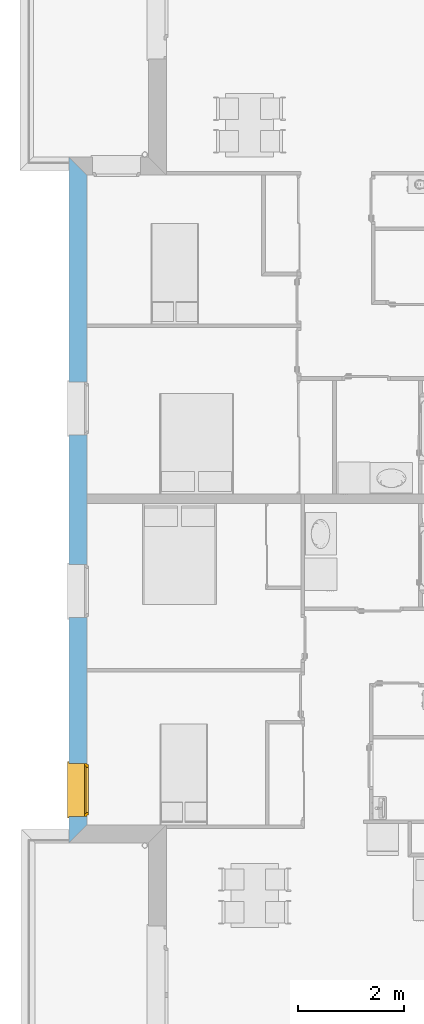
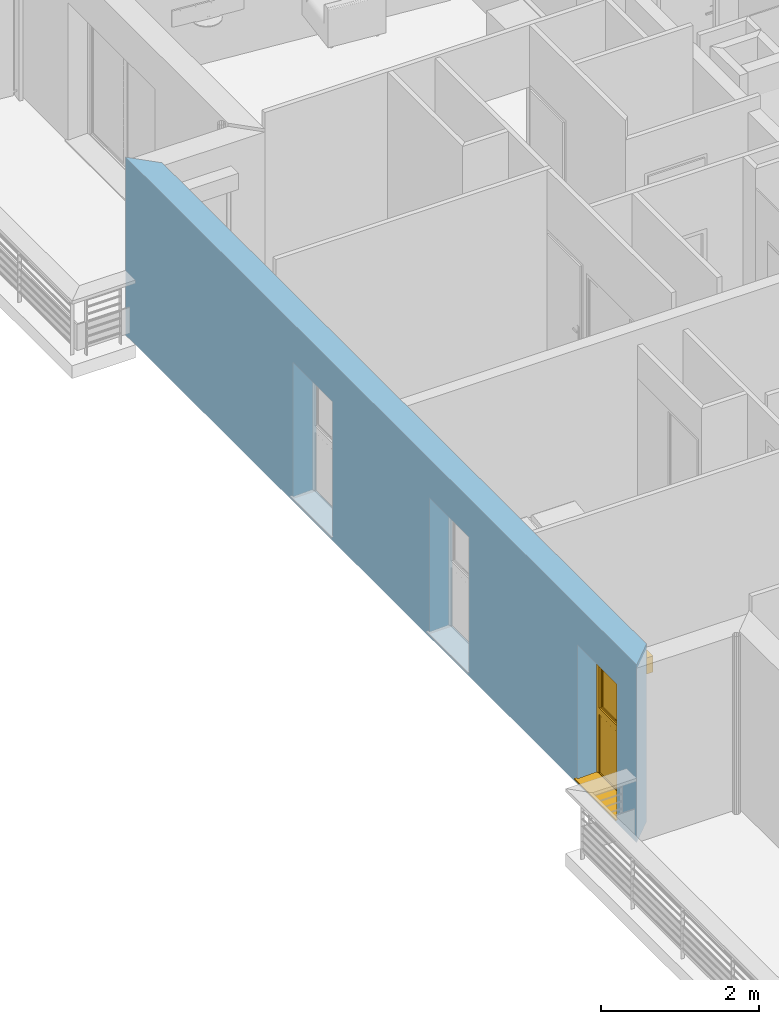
# One storey, part 26 of 164: 1 window, 3 openings, plus 1 element that does not belong to this part.
"""IFC2X3 building model written with IfcOpenShell, lengths in millimetres."""

from ifc_helpers import new_model, entity, si_unit, converted_unit, derived_unit, money_unit, direction, frame, origin_with_axes, place, context, subcontext, project, spatial, polyline, outline, extrude, open_shell, faceted_brep, surface_model, source, transform, mapped, material, layer, layer_set, layer_usage, type_object, element, fill, save


model = new_model("IFC2X3")

# Units and contexts
model_context = context("Model", 3, precision=0.01, world=origin_with_axes(), true_north=direction((0.0, 1.0)))
body_context = subcontext(model_context, "Body", "Model", "MODEL_VIEW")
ifc_project = project(units=[si_unit("LENGTHUNIT", "METRE", prefix="MILLI"), si_unit("AREAUNIT", "SQUARE_METRE"), si_unit("VOLUMEUNIT", "CUBIC_METRE"), converted_unit("PLANEANGLEUNIT", "DEGREE", entity("IfcPlaneAngleMeasure", 0.0174532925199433), si_unit("PLANEANGLEUNIT", "RADIAN"), dimensions=[0, 0, 0, 0, 0, 0, 0]), money_unit("USD"), converted_unit("TIMEUNIT", "Year", entity("IfcTimeMeasure", 31557600.0), si_unit("TIMEUNIT", "SECOND"), dimensions=[0, 0, 1, 0, 0, 0, 0]), si_unit("MASSUNIT", "GRAM", prefix="KILO"), si_unit("THERMODYNAMICTEMPERATUREUNIT", "DEGREE_CELSIUS"), si_unit("LUMINOUSINTENSITYUNIT", "LUMEN"), si_unit("ENERGYUNIT", "JOULE", prefix="MEGA"), derived_unit("THERMALCONDUCTANCEUNIT", [(si_unit("POWERUNIT", "WATT"), 1), (si_unit("LENGTHUNIT", "METRE"), -1), (si_unit("THERMODYNAMICTEMPERATUREUNIT", "KELVIN"), -1)]), derived_unit("SPECIFICHEATCAPACITYUNIT", [(si_unit("ENERGYUNIT", "JOULE"), 1), (si_unit("MASSUNIT", "GRAM", prefix="KILO"), -1), (si_unit("THERMODYNAMICTEMPERATUREUNIT", "KELVIN"), -1)]), derived_unit("MASSDENSITYUNIT", [(si_unit("MASSUNIT", "GRAM", prefix="KILO"), 1), (si_unit("VOLUMEUNIT", "CUBIC_METRE"), -1)])], contexts=[model_context])

# Site, building, storey
site_placement = place(None, origin_with_axes())
site = spatial("IfcSite", under=ifc_project, at=site_placement, Name="Site", CompositionType="ELEMENT")
building_placement = place(site_placement, origin_with_axes())
building = spatial("IfcBuilding", under=site, at=building_placement, Name="Bâtiment", CompositionType="ELEMENT")
storey_placement = place(building_placement, frame((0.0, 0.0, 5750.0), z_axis=(0.0, 0.0, 1.0), x_axis=(1.0, 0.0, 0.0)))
storey = spatial("IfcBuildingStorey", under=building, at=storey_placement, Name="Etage1", CompositionType="ELEMENT", Elevation=5750.0)

# Wall, openings, window
ifc_material_1 = material(Name="Parpaing 312445824")
ifc_layer_1 = layer(ifc_material_1, 180.0, ventilated="UNKNOWN")
ifc_material_2 = material(Name="Isolant styromousse 301821074")
ifc_layer_2 = layer(ifc_material_2, 160.0, ventilated="UNKNOWN")
ifc_layer_set = layer_set([ifc_layer_1, ifc_layer_2], Name="isol int 18+16 0018356637")
ifc_layer_usage = layer_usage(ifc_layer_set, "AXIS2", "POSITIVE", 0.0)
wall_type = type_object("IfcWallType", Name="isol int 18+16 0018356637 340", PredefinedType="NOTDEFINED")
wall_placement = place(storey_placement, frame((2216634.23600678, -626071.2161261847, 0.0), z_axis=(0.0, 0.0, 1.0), x_axis=(5.891582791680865e-06, -0.9999999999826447, 0.0)))
wall = element("IfcWallStandardCase", 1, at=wall_placement, inside=storey, type_object=wall_type, material=ifc_layer_usage, Name="Mur-143", context=body_context, shape_type="SweptSolid", body=[
    extrude(outline(polyline([(-0.001993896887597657, 0.0), (12945.59157326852, 0.0), (12605.59357640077, 340.0000000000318), (340.0000092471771, 340.0000000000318), (-0.001993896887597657, 0.0)])), origin_with_axes(), (0.0, 0.0, 1.0), 2750.0),
])
opening_1_placement = place(wall_placement, frame((4744.546071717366, -1.13686837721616e-10, 49.99999999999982), z_axis=(0.0, 0.0, 1.0), x_axis=(1.0, 0.0, 0.0)))
element("IfcOpeningElement", 2, at=opening_1_placement, cuts=wall, Name="Fen-133", context=body_context, shape_type="Brep", body=[
    faceted_brep([(-499.9999999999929, 289.9999999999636, 2100.0), (-499.9999999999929, 341.0762700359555, 2100.0), (-500.0, 341.0762700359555, 0.0), (-500.0, 289.9999999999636, 0.0), (-499.9999999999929, 280.0000000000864, 2100.0), (-499.9999999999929, 280.0000000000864, 2350.0), (-500.0, 530.0000000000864, 2350.0), (-500.0, 530.0000000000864, 2100.0), (500.0, 341.0762700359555, 2100.0), (500.0, 341.0762700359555, 0.0), (500.0, 289.9999999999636, 0.0), (500.0, -1.076270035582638, 0.0), (-500.0, -1.076270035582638, 0.0), (-500.0, -1.076270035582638, 2100.0), (500.0, 280.0000000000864, 2100.0), (500.0, 280.0000000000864, 2350.0), (499.9999999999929, 529.9999999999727, 2350.0), (499.9999999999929, 529.9999999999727, 2100.0), (500.0, 289.9999999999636, 2100.0), (500.0, -1.076270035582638, 2100.0)], [[[0, 1, 2, 3]], [[1, 0, 4, 5, 6, 7]], [[1, 8, 9, 2]], [[10, 11, 12, 3, 2, 9]], [[4, 0, 3, 12, 13]], [[4, 14, 15, 5]], [[6, 5, 15, 16]], [[7, 6, 16, 17]], [[8, 1, 7, 17]], [[8, 18, 10, 9]], [[18, 14, 19, 11, 10]], [[13, 12, 11, 19]], [[14, 4, 13, 19]], [[18, 8, 17, 16, 15, 14]]]),
])
opening_2_placement = place(wall_placement, frame((11943.66357682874, -1.13686837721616e-10, 49.99999999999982), z_axis=(0.0, 0.0, 1.0), x_axis=(1.0, 0.0, 0.0)))
opening_2 = element("IfcOpeningElement", 3, at=opening_2_placement, cuts=wall, Name="Fen-133", context=body_context, shape_type="Brep", body=[
    faceted_brep([(-500.0, 290.0000000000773, 2100.0), (-500.0000000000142, 341.0762700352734, 2100.0), (-500.0000000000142, 341.0762700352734, 0.0), (-500.0, 290.0000000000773, 0.0), (-500.0, 280.0000000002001, 2100.0), (-500.0, 280.0000000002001, 2350.0), (-500.0000000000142, 529.9999999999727, 2350.0), (-500.0000000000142, 529.9999999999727, 2100.0), (500.0, 341.0762700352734, 2100.0), (499.9999999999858, 341.0762700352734, 0.0), (499.9999999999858, 289.9999999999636, 0.0), (500.0, -1.076270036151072, 0.0), (-500.0, -1.076270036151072, 0.0), (-500.0, -1.076270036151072, 2100.0), (500.0, 280.0000000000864, 2100.0), (500.0, 280.0000000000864, 2350.0), (500.0, 529.9999999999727, 2350.0), (500.0, 529.9999999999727, 2100.0), (500.0, 289.9999999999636, 2100.0), (500.0, -1.076270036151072, 2100.0)], [[[0, 1, 2, 3]], [[1, 0, 4, 5, 6, 7]], [[1, 8, 9, 2]], [[10, 11, 12, 3, 2, 9]], [[4, 0, 3, 12, 13]], [[4, 14, 15, 5]], [[15, 16, 6, 5]], [[16, 17, 7, 6]], [[8, 1, 7, 17]], [[8, 18, 10, 9]], [[18, 14, 19, 11, 10]], [[13, 12, 11, 19]], [[14, 4, 13, 19]], [[18, 8, 17, 16, 15, 14]]]),
])
opening_3_placement = place(wall_placement, frame((8194.484965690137, -1.13686837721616e-10, 49.99999999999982), z_axis=(0.0, 0.0, 1.0), x_axis=(1.0, 0.0, 0.0)))
element("IfcOpeningElement", 4, at=opening_3_placement, cuts=wall, Name="Fen-133", context=body_context, shape_type="Brep", body=[
    faceted_brep([(-500.0, 290.0000000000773, 2100.0), (-499.9999999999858, 341.076270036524, 2100.0), (-499.9999999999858, 341.076270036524, 0.0), (-499.9999999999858, 290.0000000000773, 0.0), (-500.0, 280.0000000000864, 2100.0), (-500.0, 280.0000000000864, 2350.0), (-499.9999999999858, 530.0000000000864, 2350.0), (-499.9999999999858, 530.0000000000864, 2100.0), (500.0000000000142, 341.076270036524, 2100.0), (500.0, 341.076270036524, 0.0), (500.0000000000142, 289.9999999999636, 0.0), (500.0000000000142, -1.076270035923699, 0.0), (-499.9999999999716, -1.076270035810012, 0.0), (-499.9999999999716, -1.076270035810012, 2100.0), (500.0000000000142, 280.0000000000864, 2100.0), (500.0000000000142, 280.0000000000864, 2350.0), (500.0000000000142, 530.0000000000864, 2350.0), (500.0000000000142, 530.0000000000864, 2100.0), (500.0000000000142, 289.9999999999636, 2100.0), (500.0000000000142, -1.076270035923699, 2100.0)], [[[0, 1, 2, 3]], [[1, 0, 4, 5, 6, 7]], [[1, 8, 9, 2]], [[10, 11, 12, 3, 2, 9]], [[4, 0, 3, 12, 13]], [[4, 14, 15, 5]], [[6, 5, 15, 16]], [[7, 6, 16, 17]], [[8, 1, 7, 17]], [[8, 18, 10, 9]], [[18, 14, 19, 11, 10]], [[13, 12, 11, 19]], [[14, 4, 13, 19]], [[18, 8, 17, 16, 15, 14]]]),
])
window_style = type_object("IfcWindowStyle", Name="Fenêtre 27", ConstructionType="NOTDEFINED", OperationType="DOUBLE_PANEL_HORIZONTAL", ParameterTakesPrecedence=False, Sizeable=False)
shared_shape = source(origin_with_axes(), body_context, "Body", "SurfaceModel", [
    surface_model("IfcShellBasedSurfaceModel", [(500.0, -51.00000000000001, 40.00000000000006), (500.0, -51.00000000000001, 50.00000000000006), (-500.0, -51.00000000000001, 50.0), (-500.0, -51.00000000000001, 40.0), (530.0, -369.9999999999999, 28.96551724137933), (530.0, -339.9999999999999, 30.00324289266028), (500.0, -339.9999999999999, 30.00324289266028), (-500.0, -339.9999999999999, 30.00324289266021), (-530.0, -339.9999999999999, 30.00324289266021), (-530.0, -369.9999999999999, 28.96551724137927), (530.0, -369.9999999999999, 8.96551724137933), (-530.0, -369.9999999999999, 8.965517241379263), (530.0, -359.9999999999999, 18.96551724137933), (-530.0, -359.9999999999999, 18.96551724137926)], [open_shell([[[0, 1, 2, 3]], [[4, 5, 6, 0, 3, 7, 8, 9]], [[10, 4, 9, 11]], [[12, 10, 11, 13]]])]),
    faceted_brep([(-500.0, -59.99999999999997, 2350.0), (-497.0, -59.99999999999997, 2350.0), (-497.0, 190.0, 2350.0), (-500.0, 190.0, 2350.0), (-500.0, -59.99999999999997, 2100.0), (-497.0, -59.99999999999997, 2100.0), (-497.0, 190.0, 2100.0), (-500.0, 190.0, 2100.0)], [[[0, 1, 2, 3]], [[4, 5, 1, 0]], [[1, 5, 6, 2]], [[3, 2, 6, 7]], [[0, 3, 7, 4]], [[7, 6, 5, 4]]]),
    faceted_brep([(497.0, -59.99999999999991, 2350.0), (500.0, -59.99999999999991, 2350.0), (500.0, 190.0000000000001, 2350.0), (497.0, 190.0000000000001, 2350.0), (497.0, -59.99999999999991, 2100.0), (500.0, -59.99999999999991, 2100.0), (500.0, 190.0000000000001, 2100.0), (497.0, 190.0000000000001, 2100.0)], [[[0, 1, 2, 3]], [[4, 5, 1, 0]], [[1, 5, 6, 2]], [[3, 2, 6, 7]], [[0, 3, 7, 4]], [[7, 6, 5, 4]]]),
    faceted_brep([(-497.0, -60.0, 2100.0), (497.0, -59.99999999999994, 2100.0), (497.0, -59.99999999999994, 2350.0), (-497.0, -60.0, 2350.0), (-497.0, -56.99999999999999, 2100.0), (497.0, -56.99999999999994, 2100.0), (497.0, -56.99999999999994, 2347.0), (497.0, 187.0000000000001, 2347.0), (497.0, 187.0000000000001, 2103.0), (497.0, -37.99999999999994, 2103.0), (497.0, -37.99999999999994, 2100.0), (497.0, 190.0000000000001, 2100.0), (497.0, 190.0000000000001, 2350.0), (-497.0, 190.0, 2350.0), (-497.0, 190.0, 2100.0), (-497.0, -37.99999999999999, 2100.0), (-497.0, -37.99999999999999, 2103.0), (-497.0, 187.0, 2103.0), (-497.0, 187.0, 2347.0), (-497.0, -56.99999999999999, 2347.0)], [[[0, 1, 2, 3]], [[4, 5, 1, 0]], [[1, 5, 6, 7, 8, 9, 10, 11, 12, 2]], [[3, 2, 12, 13]], [[0, 3, 13, 14, 15, 16, 17, 18, 19, 4]], [[19, 6, 5, 4]], [[18, 7, 6, 19]], [[17, 8, 7, 18]], [[16, 9, 8, 17]], [[15, 10, 9, 16]], [[14, 11, 10, 15]], [[13, 12, 11, 14]]]),
    faceted_brep([(-494.0, -40.37442957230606, 2206.419644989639), (-494.0, -41.99999999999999, 2225.0), (-494.0, -40.37442957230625, 2243.580355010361), (-494.0, -35.54711042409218, 2261.596155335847), (-494.0, -27.66471820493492, 2278.5), (-494.0, -16.96675541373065, 2293.77827423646), (-494.0, -3.778274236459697, 2306.966755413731), (-494.0, 11.5, 2317.664718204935), (-494.0, 28.40384466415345, 2325.547110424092), (-494.0, 46.41964498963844, 2330.374429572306), (-494.0, 64.99999999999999, 2332.0), (-494.0, 83.58035501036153, 2330.374429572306), (-494.0, 101.5961553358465, 2325.547110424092), (-494.0, 118.5, 2317.664718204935), (-494.0, 133.7782742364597, 2306.966755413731), (-494.0, 146.9667554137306, 2293.77827423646), (-494.0, 157.6647182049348, 2278.5), (-494.0, 165.5471104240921, 2261.596155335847), (-494.0, 170.3744295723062, 2243.580355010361), (-494.0, 171.9999999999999, 2225.0), (-494.0, 170.3744295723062, 2206.419644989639), (-494.0, 165.5471104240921, 2188.403844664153), (-494.0, 157.6647182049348, 2171.5), (-494.0, 146.9667554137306, 2156.22172576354), (-494.0, 133.7782742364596, 2143.03324458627), (-494.0, 118.4999999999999, 2132.335281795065), (-494.0, 101.5961553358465, 2124.452889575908), (-494.0, 83.58035501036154, 2119.625570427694), (-494.0, 65.00000000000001, 2118.0), (-494.0, 46.4196449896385, 2119.625570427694), (-494.0, 28.40384466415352, 2124.452889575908), (-494.0, 11.50000000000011, 2132.335281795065), (-494.0, -3.778274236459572, 2143.03324458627), (-494.0, -16.9667554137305, 2156.22172576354), (-494.0, -27.66471820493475, 2171.5), (-494.0, -35.54711042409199, 2188.403844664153), (494.0, -40.374429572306, 2206.419644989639), (494.0, -41.99999999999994, 2225.0), (494.0, -40.37442957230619, 2243.580355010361), (494.0, -35.54711042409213, 2261.596155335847), (494.0, -27.66471820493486, 2278.5), (494.0, -16.96675541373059, 2293.77827423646), (494.0, -3.778274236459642, 2306.966755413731), (494.0, 11.50000000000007, 2317.664718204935), (494.0, 28.40384466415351, 2325.547110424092), (494.0, 46.41964498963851, 2330.374429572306), (494.0, 65.00000000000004, 2332.0), (494.0, 83.58035501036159, 2330.374429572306), (494.0, 101.5961553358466, 2325.547110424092), (494.0, 118.5, 2317.664718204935), (494.0, 133.7782742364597, 2306.966755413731), (494.0, 146.9667554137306, 2293.77827423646), (494.0, 157.6647182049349, 2278.5), (494.0, 165.5471104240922, 2261.596155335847), (494.0, 170.3744295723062, 2243.580355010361), (494.0, 172.0, 2225.0), (494.0, 170.3744295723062, 2206.419644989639), (494.0, 165.5471104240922, 2188.403844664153), (494.0, 157.6647182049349, 2171.5), (494.0, 146.9667554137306, 2156.22172576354), (494.0, 133.7782742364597, 2143.03324458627), (494.0, 118.5, 2132.335281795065), (494.0, 101.5961553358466, 2124.452889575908), (494.0, 83.5803550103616, 2119.625570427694), (494.0, 65.00000000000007, 2118.0), (494.0, 46.41964498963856, 2119.625570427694), (494.0, 28.40384466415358, 2124.452889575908), (494.0, 11.50000000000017, 2132.335281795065), (494.0, -3.778274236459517, 2143.03324458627), (494.0, -16.96675541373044, 2156.22172576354), (494.0, -27.6647182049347, 2171.5), (494.0, -35.54711042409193, 2188.403844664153)], [[[0, 1, 2, 3, 4, 5, 6, 7, 8, 9, 10, 11, 12, 13, 14, 15, 16, 17, 18, 19, 20, 21, 22, 23, 24, 25, 26, 27, 28, 29, 30, 31, 32, 33, 34, 35]], [[0, 36, 37, 1]], [[1, 37, 38, 2]], [[2, 38, 39, 3]], [[3, 39, 40, 4]], [[4, 40, 41, 5]], [[5, 41, 42, 6]], [[6, 42, 43, 7]], [[7, 43, 44, 8]], [[8, 44, 45, 9]], [[9, 45, 46, 10]], [[10, 46, 47, 11]], [[11, 47, 48, 12]], [[12, 48, 49, 13]], [[13, 49, 50, 14]], [[14, 50, 51, 15]], [[15, 51, 52, 16]], [[16, 52, 53, 17]], [[17, 53, 54, 18]], [[18, 54, 55, 19]], [[19, 55, 56, 20]], [[20, 56, 57, 21]], [[21, 57, 58, 22]], [[22, 58, 59, 23]], [[23, 59, 60, 24]], [[24, 60, 61, 25]], [[25, 61, 62, 26]], [[26, 62, 63, 27]], [[27, 63, 64, 28]], [[28, 64, 65, 29]], [[29, 65, 66, 30]], [[30, 66, 67, 31]], [[31, 67, 68, 32]], [[32, 68, 69, 33]], [[33, 69, 70, 34]], [[34, 70, 71, 35]], [[35, 71, 36, 0]], [[36, 71, 70, 69, 68, 67, 66, 65, 64, 63, 62, 61, 60, 59, 58, 57, 56, 55, 54, 53, 52, 51, 50, 49, 48, 47, 46, 45, 44, 43, 42, 41, 40, 39, 38, 37]]]),
    faceted_brep([(500.0, -34.99999999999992, 30.0), (500.0, -34.99999999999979, 2100.0), (500.0, -59.99999999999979, 2100.0), (500.0, -59.99999999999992, 30.0), (475.0, -34.99999999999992, 30.0), (475.0, -34.99999999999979, 2100.0), (475.0, -37.99999999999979, 2100.0), (497.0, -37.99999999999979, 2100.0), (497.0, -56.99999999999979, 2100.0), (475.0, -56.99999999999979, 2100.0), (475.0, -59.99999999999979, 2100.0), (475.0, -59.99999999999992, 30.0), (475.0, -56.99999999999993, 30.0), (497.0, -56.99999999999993, 30.0), (497.0, -37.99999999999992, 30.0), (475.0, -37.99999999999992, 30.0)], [[[0, 1, 2, 3]], [[4, 5, 1, 0]], [[1, 5, 6, 7, 8, 9, 10, 2]], [[3, 2, 10, 11]], [[0, 3, 11, 12, 13, 14, 15, 4]], [[15, 6, 5, 4]], [[14, 7, 6, 15]], [[13, 8, 7, 14]], [[12, 9, 8, 13]], [[11, 10, 9, 12]]]),
    faceted_brep([(-500.0, -34.99999999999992, 30.0), (-500.0, -59.99999999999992, 30.0), (-500.0, -59.99999999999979, 2100.0), (-500.0, -34.99999999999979, 2100.0), (-475.0, -34.99999999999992, 30.0), (-475.0, -37.99999999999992, 30.0), (-497.0, -37.99999999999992, 30.0), (-497.0, -56.99999999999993, 30.0), (-475.0, -56.99999999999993, 30.0), (-475.0, -59.99999999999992, 30.0), (-475.0, -59.99999999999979, 2100.0), (-475.0, -56.99999999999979, 2100.0), (-497.0, -56.99999999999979, 2100.0), (-497.0, -37.99999999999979, 2100.0), (-475.0, -37.99999999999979, 2100.0), (-475.0, -34.99999999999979, 2100.0)], [[[0, 1, 2, 3]], [[0, 4, 5, 6, 7, 8, 9, 1]], [[1, 9, 10, 2]], [[3, 2, 10, 11, 12, 13, 14, 15]], [[4, 0, 3, 15]], [[5, 4, 15, 14]], [[6, 5, 14, 13]], [[7, 6, 13, 12]], [[8, 7, 12, 11]], [[9, 8, 11, 10]]]),
    faceted_brep([(497.0, -46.66666666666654, 2225.0), (497.0, -46.66666666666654, 2216.666666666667), (-497.0, -46.6666666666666, 2216.666666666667), (-497.0, -46.6666666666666, 2225.0), (497.0, -51.66666666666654, 2225.0), (497.0, -51.66666666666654, 2216.666666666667), (497.0, -49.99999999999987, 2200.0), (497.0, -44.99999999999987, 2200.0), (-497.0, -44.99999999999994, 2200.0), (-497.0, -49.99999999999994, 2200.0), (-497.0, -51.6666666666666, 2216.666666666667), (-497.0, -51.6666666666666, 2225.0)], [[[0, 1, 2, 3]], [[4, 5, 6, 7, 1, 0]], [[2, 1, 7, 8]], [[3, 2, 8, 9, 10, 11]], [[3, 11, 4, 0]], [[10, 5, 4, 11]], [[9, 6, 5, 10]], [[8, 7, 6, 9]]]),
    faceted_brep([(-497.0, -44.99999999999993, 2200.0), (497.0, -44.99999999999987, 2200.0), (497.0, -46.66666666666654, 2183.333333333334), (-497.0, -46.6666666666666, 2183.333333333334), (-497.0, -49.99999999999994, 2200.0), (497.0, -49.99999999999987, 2200.0), (497.0, -51.66666666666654, 2183.333333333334), (497.0, -51.66666666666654, 2166.666666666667), (497.0, -49.99999999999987, 2150.000000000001), (497.0, -44.99999999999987, 2150.000000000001), (497.0, -46.66666666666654, 2166.666666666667), (-497.0, -46.6666666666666, 2166.666666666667), (-497.0, -44.99999999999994, 2150.000000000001), (-497.0, -49.99999999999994, 2150.000000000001), (-497.0, -51.6666666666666, 2166.666666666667), (-497.0, -51.6666666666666, 2183.333333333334)], [[[0, 1, 2, 3]], [[4, 5, 1, 0]], [[1, 5, 6, 7, 8, 9, 10, 2]], [[3, 2, 10, 11]], [[0, 3, 11, 12, 13, 14, 15, 4]], [[15, 6, 5, 4]], [[14, 7, 6, 15]], [[13, 8, 7, 14]], [[12, 9, 8, 13]], [[11, 10, 9, 12]]]),
    faceted_brep([(-497.0, -44.99999999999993, 2150.000000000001), (497.0, -44.99999999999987, 2150.000000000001), (497.0, -46.66666666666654, 2133.333333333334), (-497.0, -46.6666666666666, 2133.333333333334), (-497.0, -49.99999999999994, 2150.000000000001), (497.0, -49.99999999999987, 2150.000000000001), (497.0, -51.66666666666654, 2133.333333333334), (497.0, -51.66666666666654, 2116.666666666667), (497.0, -49.99999999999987, 2100.000000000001), (497.0, -44.99999999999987, 2100.000000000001), (497.0, -46.66666666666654, 2116.666666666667), (-497.0, -46.6666666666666, 2116.666666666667), (-497.0, -44.99999999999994, 2100.000000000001), (-497.0, -49.99999999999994, 2100.000000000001), (-497.0, -51.6666666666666, 2116.666666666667), (-497.0, -51.6666666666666, 2133.333333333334)], [[[0, 1, 2, 3]], [[4, 5, 1, 0]], [[1, 5, 6, 7, 8, 9, 10, 2]], [[3, 2, 10, 11]], [[0, 3, 11, 12, 13, 14, 15, 4]], [[15, 6, 5, 4]], [[14, 7, 6, 15]], [[13, 8, 7, 14]], [[12, 9, 8, 13]], [[11, 10, 9, 12]]]),
    faceted_brep([(-475.0000000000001, 0.0, 2050.0), (-500.0, 0.0, 2050.0), (-500.0, -50.00000000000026, 2050.0), (-450.0, -50.00000000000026, 2050.0), (-450.0, -25.00000000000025, 2050.0), (-475.0000000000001, -25.00000000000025, 2050.0), (-475.0000000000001, 0.0, 1025.0), (-450.0, 0.0, 1025.0), (-450.0, 0.0, 950.0), (-450.0, 0.0, 50.00000000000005), (-500.0, 0.0, 50.00000000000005), (-500.0, -50.00000000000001, 50.00000000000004), (-450.0, -50.00000000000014, 1050.0), (-450.0, -50.00000000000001, 50.00000000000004), (-450.0, -50.00000000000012, 950.0), (-450.0, -25.00000000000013, 1050.0), (-450.0, -25.00000000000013, 1025.0), (-475.0000000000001, -25.00000000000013, 1025.0)], [[[0, 1, 2, 3, 4, 5]], [[6, 7, 8, 9, 10, 1, 0]], [[1, 10, 11, 2]], [[12, 3, 2, 11, 13, 14]], [[4, 3, 12, 15]], [[15, 16, 17, 5, 4]], [[5, 17, 6, 0]], [[6, 17, 16, 7]], [[16, 15, 12, 14, 8, 7]], [[9, 8, 14, 13]], [[10, 9, 13, 11]]]),
    faceted_brep([(450.0, -25.00000000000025, 2050.0), (450.0, -50.00000000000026, 2050.0), (500.0, -50.00000000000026, 2050.0), (500.0, 0.0, 2050.0), (475.0000000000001, 0.0, 2050.0), (475.0000000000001, -25.00000000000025, 2050.0), (450.0, -25.00000000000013, 1050.0), (450.0, -50.00000000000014, 1050.0), (500.0, -50.00000000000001, 50.00000000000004), (450.0, -50.00000000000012, 950.0), (450.0, -50.00000000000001, 50.00000000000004), (500.0, 0.0, 50.00000000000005), (475.0000000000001, 0.0, 1025.0), (450.0, 0.0, 50.00000000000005), (450.0, 0.0, 950.0), (450.0, 0.0, 1025.0), (475.0000000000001, -25.00000000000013, 1025.0), (450.0, -25.00000000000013, 1025.0)], [[[0, 1, 2, 3, 4, 5]], [[6, 7, 1, 0]], [[8, 2, 1, 7, 9, 10]], [[11, 3, 2, 8]], [[12, 4, 3, 11, 13, 14, 15]], [[12, 16, 5, 4]], [[5, 16, 17, 6, 0]], [[17, 15, 14, 9, 7, 6]], [[14, 13, 10, 9]], [[13, 11, 8, 10]], [[15, 17, 16, 12]]]),
    faceted_brep([(-450.0, -25.00000000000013, 1050.0), (-450.0, -50.00000000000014, 1050.0), (450.0, -50.00000000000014, 1050.0), (450.0, -25.00000000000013, 1050.0), (-450.0, -25.00000000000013, 1025.0), (-450.0, 0.0, 1025.0), (-450.0, 0.0, 950.0), (-450.0, -50.00000000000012, 950.0), (450.0, -50.00000000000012, 950.0), (450.0, -25.00000000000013, 1025.0), (450.0, 0.0, 950.0), (450.0, 0.0, 1025.0)], [[[0, 1, 2, 3]], [[4, 5, 6, 7, 1, 0]], [[8, 2, 1, 7]], [[9, 3, 2, 8, 10, 11]], [[9, 4, 0, 3]], [[5, 4, 9, 11]], [[11, 10, 6, 5]], [[6, 10, 8, 7]]]),
    faceted_brep([(-475.0000000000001, 0.0, 2050.0), (-500.0, 0.0, 2050.0), (-500.0, 0.0, 2100.0), (500.0, 0.0, 2100.0), (500.0, 0.0, 2050.0), (475.0000000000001, 0.0, 2050.0), (475.0000000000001, 0.0, 2075.0), (-475.0000000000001, 0.0, 2075.0), (-475.0000000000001, -25.00000000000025, 2050.0), (-450.0, -25.00000000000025, 2050.0), (-450.0, -50.00000000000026, 2050.0), (-500.0, -50.00000000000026, 2050.0), (-500.0, -50.00000000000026, 2100.0), (500.0, -50.00000000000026, 2100.0), (500.0, -50.00000000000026, 2050.0), (475.0000000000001, -25.00000000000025, 2050.0), (450.0, -50.00000000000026, 2050.0), (450.0, -25.00000000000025, 2050.0), (475.0000000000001, -25.00000000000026, 2075.0), (-475.0000000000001, -25.00000000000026, 2075.0)], [[[0, 1, 2, 3, 4, 5, 6, 7]], [[8, 9, 10, 11, 1, 0]], [[2, 1, 11, 12]], [[3, 2, 12, 13]], [[4, 3, 13, 14]], [[15, 5, 4, 14, 16, 17]], [[5, 15, 18, 6]], [[6, 18, 19, 7]], [[7, 19, 8, 0]], [[17, 9, 8, 19, 18, 15]], [[17, 16, 10, 9]], [[14, 13, 12, 11, 10, 16]]]),
    faceted_brep([(-450.0, -50.00000000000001, 50.0), (-450.0, 0.0, 50.00000000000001), (-500.0, 0.0, 50.00000000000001), (-500.0, -50.00000000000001, 50.0), (450.0, -50.00000000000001, 50.0), (450.0, 0.0, 50.00000000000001), (500.0, 0.0, 50.00000000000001), (500.0, 0.0, 0.0), (-500.0, 0.0, 0.0), (-500.0, -50.0, 0.0), (500.0, -50.0, 0.0), (500.0, -50.00000000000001, 50.0)], [[[0, 1, 2, 3]], [[4, 5, 1, 0]], [[1, 5, 6, 7, 8, 2]], [[3, 2, 8, 9]], [[0, 3, 9, 10, 11, 4]], [[11, 6, 5, 4]], [[10, 7, 6, 11]], [[9, 8, 7, 10]]]),
    faceted_brep([(-425.0000000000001, -25.00000000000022, 2025.0), (-425.0000000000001, 24.99999999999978, 2025.0), (-475.0000000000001, 24.99999999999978, 2025.0), (-475.0000000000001, -25.00000000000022, 2025.0), (-425.0000000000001, -25.00000000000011, 1075.0), (-425.0000000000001, 24.9999999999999, 1075.0), (-475.0000000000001, 24.9999999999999, 1075.0), (-475.0000000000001, -25.0000000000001, 1075.0)], [[[0, 1, 2, 3]], [[4, 5, 1, 0]], [[1, 5, 6, 2]], [[3, 2, 6, 7]], [[0, 3, 7, 4]], [[7, 6, 5, 4]]]),
    faceted_brep([(425.0000000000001, -25.00000000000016, 1075.0), (425.0000000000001, 24.99999999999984, 1075.0), (475.0000000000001, 24.99999999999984, 1075.0), (475.0000000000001, -25.00000000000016, 1075.0), (425.0000000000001, -25.00000000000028, 2025.0), (425.0000000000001, 24.99999999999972, 2025.0), (475.0000000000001, 24.99999999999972, 2025.0), (475.0000000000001, -25.00000000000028, 2025.0)], [[[0, 1, 2, 3]], [[4, 5, 1, 0]], [[1, 5, 6, 2]], [[3, 2, 6, 7]], [[0, 3, 7, 4]], [[7, 6, 5, 4]]]),
    faceted_brep([(475.0000000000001, -25.00000000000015, 1025.0), (475.0000000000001, 24.99999999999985, 1025.0), (475.0000000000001, 24.99999999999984, 1075.0), (475.0000000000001, -25.00000000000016, 1075.0), (-475.0000000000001, -25.0000000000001, 1025.0), (-475.0000000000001, 24.9999999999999, 1025.0), (-475.0000000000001, 24.9999999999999, 1075.0), (-425.0000000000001, 24.9999999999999, 1075.0), (425.0000000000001, 24.99999999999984, 1075.0), (425.0000000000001, -25.00000000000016, 1075.0), (-425.0000000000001, -25.00000000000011, 1075.0), (-475.0000000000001, -25.0000000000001, 1075.0)], [[[0, 1, 2, 3]], [[4, 5, 1, 0]], [[1, 5, 6, 7, 8, 2]], [[3, 2, 8, 9]], [[0, 3, 9, 10, 11, 4]], [[11, 6, 5, 4]], [[10, 7, 6, 11]], [[9, 8, 7, 10]]]),
    faceted_brep([(-475.0000000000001, -25.00000000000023, 2075.0), (-475.0000000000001, 24.99999999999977, 2075.0), (-475.0000000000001, 24.99999999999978, 2025.0), (-475.0000000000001, -25.00000000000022, 2025.0), (475.0000000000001, -25.00000000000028, 2075.0), (475.0000000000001, 24.99999999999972, 2075.0), (475.0000000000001, 24.99999999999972, 2025.0), (425.0000000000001, 24.99999999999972, 2025.0), (-425.0000000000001, 24.99999999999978, 2025.0), (-425.0000000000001, -25.00000000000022, 2025.0), (425.0000000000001, -25.00000000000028, 2025.0), (475.0000000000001, -25.00000000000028, 2025.0)], [[[0, 1, 2, 3]], [[4, 5, 1, 0]], [[1, 5, 6, 7, 8, 2]], [[3, 2, 8, 9]], [[0, 3, 9, 10, 11, 4]], [[11, 6, 5, 4]], [[10, 7, 6, 11]], [[9, 8, 7, 10]]]),
    surface_model("IfcShellBasedSurfaceModel", [(-425.0000000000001, -10.00000000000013, 1075.0), (425.0000000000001, -10.00000000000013, 1075.0), (425.0000000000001, -10.00000000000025, 2025.0), (-425.0000000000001, -10.00000000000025, 2025.0)], [open_shell([[[0, 1, 2, 3]]])]),
    surface_model("IfcShellBasedSurfaceModel", [(-425.0000000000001, 9.999999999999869, 1075.0), (-425.0000000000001, 9.999999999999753, 2025.0), (425.0000000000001, 9.999999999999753, 2025.0), (425.0000000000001, 9.999999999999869, 1075.0)], [open_shell([[[0, 1, 2, 3]]])]),
    surface_model("IfcShellBasedSurfaceModel", [(-450.0, -35.0, 49.99999999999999), (450.0, -35.0, 49.99999999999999), (450.0, -35.00000000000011, 950.0), (-450.0, -35.00000000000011, 950.0)], [open_shell([[[0, 1, 2, 3]]])]),
    surface_model("IfcShellBasedSurfaceModel", [(-450.0, -15.0, 49.99999999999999), (-450.0, -15.00000000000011, 950.0), (450.0, -15.00000000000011, 950.0), (450.0, -15.0, 49.99999999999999)], [open_shell([[[0, 1, 2, 3]]])]),
])
window_placement = place(opening_2_placement, frame((-500.0000000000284, 1.13686837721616e-10, 0.0), z_axis=(0.0, 0.0, 1.0), x_axis=(1.0, 0.0, 0.0)))
window = element("IfcWindow", 5, at=window_placement, inside=storey, type_object=window_style, Name="Fen-133", OverallHeight=2100.0, OverallWidth=1000.0, context=body_context, shape_type="MappedRepresentation", body=[
    mapped(shared_shape, transform((500.0, 340.0000000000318, 0.0))),
])
fill(opening_2, window)

save(model, "model.ifc")
